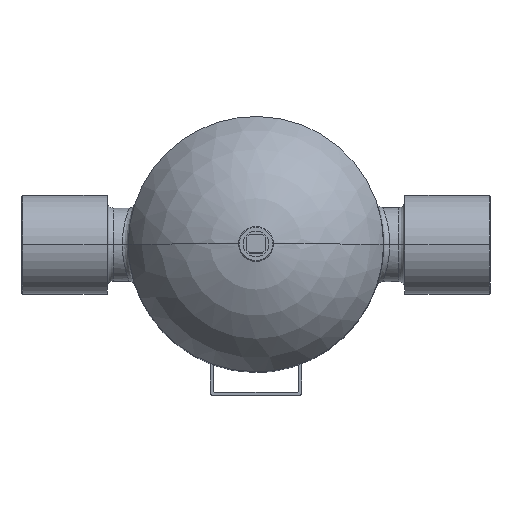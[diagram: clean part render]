
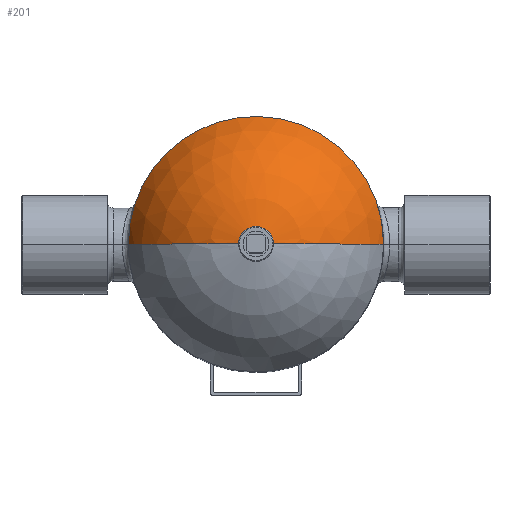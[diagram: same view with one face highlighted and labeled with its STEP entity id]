
A CAD part, top view. The second image highlights one B-rep face of the part: STEP entity #201.
In plain terms, the highlighted spherical face has radius 90.981 mm.
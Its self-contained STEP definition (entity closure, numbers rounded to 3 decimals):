
#201=ADVANCED_FACE('',(#1170),#1169,.T.);
#1169=SPHERICAL_SURFACE('',#3003,90.981);
#1170=FACE_OUTER_BOUND('',#3004,.T.);
#3000=CARTESIAN_POINT('',(0.,0.,183.019));
#3001=DIRECTION('',(0.,0.,-1.));
#3002=DIRECTION('',(-1.,0.,0.));
#3003=AXIS2_PLACEMENT_3D('',#3000,#3001,#3002);
#3004=EDGE_LOOP('',(#3798,#3799,#3800,#3801,#3802));
#3798=ORIENTED_EDGE('',*,*,#4260,.F.);
#3799=ORIENTED_EDGE('',*,*,#4253,.F.);
#3800=ORIENTED_EDGE('',*,*,#4284,.F.);
#3801=ORIENTED_EDGE('',*,*,#4285,.T.);
#3802=ORIENTED_EDGE('',*,*,#4286,.T.);
#4253=EDGE_CURVE('',#5923,#5930,#5931,.T.);
#4260=EDGE_CURVE('',#5930,#5977,#5978,.T.);
#4284=EDGE_CURVE('',#6136,#5923,#6137,.T.);
#4285=EDGE_CURVE('',#6136,#6143,#6144,.T.);
#4286=EDGE_CURVE('',#6143,#5977,#6150,.T.);
#5923=VERTEX_POINT('',#8157);
#5930=VERTEX_POINT('',#8161);
#5931=CIRCLE('',#8165,84.);
#5977=VERTEX_POINT('',#8188);
#5978=CIRCLE('',#8192,84.);
#6136=VERTEX_POINT('',#8394);
#6137=(BOUNDED_CURVE() B_SPLINE_CURVE(2,(#8395,#8396,#8397),.UNSPECIFIED.,.F.,.F.) B_SPLINE_CURVE_WITH_KNOTS((3,3),(0.,1.),.UNSPECIFIED.) CURVE() GEOMETRIC_REPRESENTATION_ITEM() RATIONAL_B_SPLINE_CURVE((1.,0.865,1.)) REPRESENTATION_ITEM('') );
#6143=VERTEX_POINT('',#8398);
#6144=CIRCLE('',#8402,11.5);
#6150=(BOUNDED_CURVE() B_SPLINE_CURVE(2,(#8403,#8404,#8405),.UNSPECIFIED.,.F.,.F.) B_SPLINE_CURVE_WITH_KNOTS((3,3),(0.,1.),.UNSPECIFIED.) CURVE() GEOMETRIC_REPRESENTATION_ITEM() RATIONAL_B_SPLINE_CURVE((0.75,0.649,0.75)) REPRESENTATION_ITEM('') );
#8157=CARTESIAN_POINT('',(-84.,0.,217.97));
#8161=CARTESIAN_POINT('',(0.733,83.997,217.97));
#8162=CARTESIAN_POINT('',(0.,0.,217.97));
#8163=DIRECTION('',(0.,0.,-1.));
#8164=DIRECTION('',(-1.,0.,0.));
#8165=AXIS2_PLACEMENT_3D('',#8162,#8163,#8164);
#8188=CARTESIAN_POINT('',(84.,0.,217.97));
#8189=CARTESIAN_POINT('',(0.,0.,217.97));
#8190=DIRECTION('',(0.,0.,-1.));
#8191=DIRECTION('',(-1.,0.,0.));
#8192=AXIS2_PLACEMENT_3D('',#8189,#8190,#8191);
#8394=CARTESIAN_POINT('',(-11.5,0.,273.27));
#8395=CARTESIAN_POINT('',(-11.5,0.,273.27));
#8396=CARTESIAN_POINT('',(-63.761,0.,266.611));
#8397=CARTESIAN_POINT('',(-84.,0.,217.97));
#8398=CARTESIAN_POINT('',(11.5,0.,273.27));
#8399=CARTESIAN_POINT('',(0.,0.,273.27));
#8400=DIRECTION('',(0.,0.,-1.));
#8401=DIRECTION('',(-1.,0.,0.));
#8402=AXIS2_PLACEMENT_3D('',#8399,#8400,#8401);
#8403=CARTESIAN_POINT('',(11.5,0.,273.27));
#8404=CARTESIAN_POINT('',(63.761,0.,266.611));
#8405=CARTESIAN_POINT('',(84.,0.,217.97));
